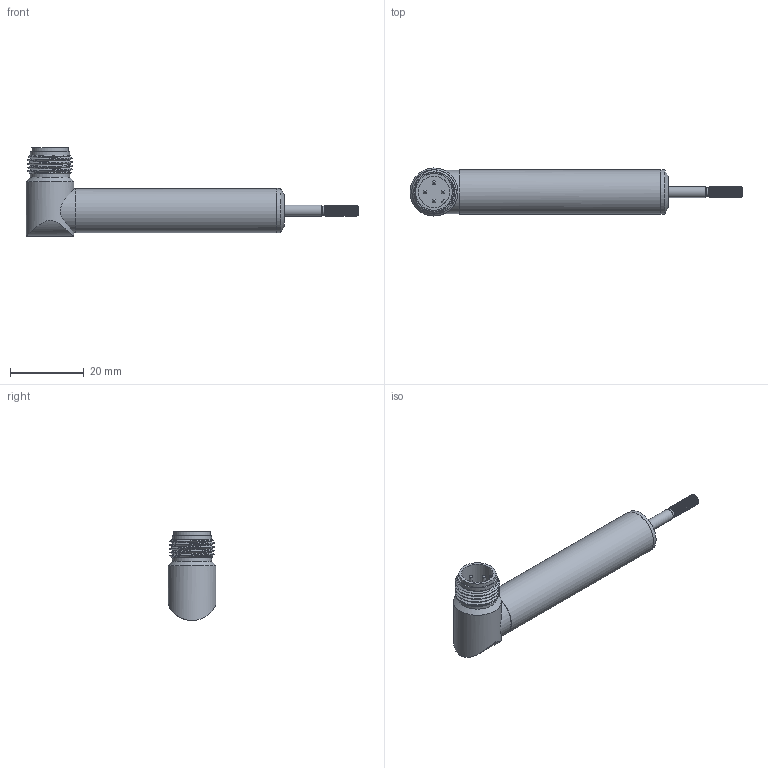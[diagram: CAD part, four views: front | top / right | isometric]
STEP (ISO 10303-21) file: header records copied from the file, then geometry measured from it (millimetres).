
FILE_DESCRIPTION( ( 'STEP AP214' ), '1' );
FILE_NAME( 'N:/Engineering/CAD_Solid/LVDT/SM/Kunden-3D-Modell/SM5-SG-SR.stp', '2011-12-12T13:37:04', ( ' ' ), ( ' ' ), 'XStep 1.0', ' ', ' ' );
FILE_SCHEMA( ( 'CONFIG_CONTROL_DESIGN) ( )' ) );
Length unit declared in the file: metre
Products named in the file (3): 1; 2; 3
Bounding box: 90 x 13 x 24.1 mm (x, y, z)
Surface area: 4297.7 mm2 (no closed solid volume)
Topology: 0 solids, 56 shells, 56 faces, 224 edges, 202 vertices
Faces by surface type: cylinder 24, plane 14, bspline 9, cone 8, torus 1
Full cylindrical faces by diameter (mm): 1 x4, 2.4 x1, 3 x1, 8.5 x1, 10 x1, 10.6 x2, 11.8 x1, 12 x2, 13 x1
Entity records: 6887 total; most frequent: CARTESIAN_POINT 4835, DIRECTION 334, ORIENTED_EDGE 191, EDGE_CURVE 191, VERTEX_POINT 191, AXIS2_PLACEMENT_3D 149, CIRCLE 99, FACE_BOUND 91
